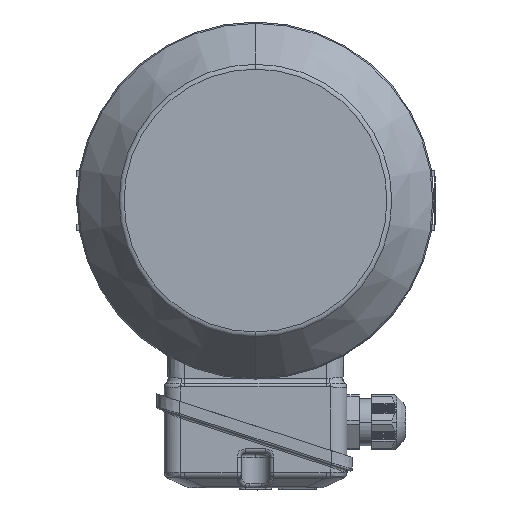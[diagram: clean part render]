
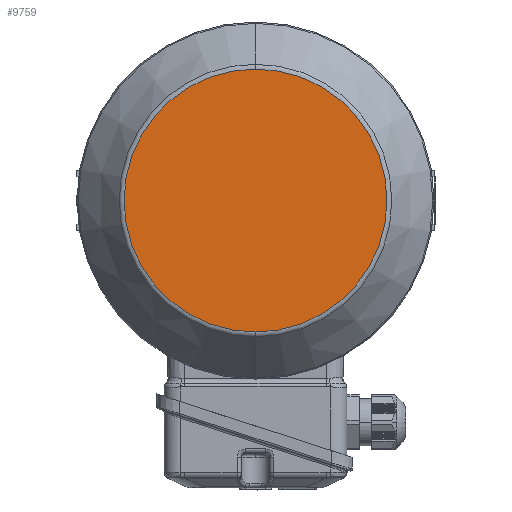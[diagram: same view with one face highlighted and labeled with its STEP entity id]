
A CAD part, left-side view. The second image highlights one B-rep face of the part: STEP entity #9759.
In plain terms, the highlighted planar face has unit normal (-1, 0, 0).
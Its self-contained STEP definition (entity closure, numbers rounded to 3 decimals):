
#427 = ORIENTED_EDGE ( 'NONE', *, *, #37632, .F. ) ;
#692 = CARTESIAN_POINT ( 'NONE',  ( -166.5, 0., -64.037 ) ) ;
#996 = AXIS2_PLACEMENT_3D ( 'NONE', #2125, #19987, #39215 ) ;
#2125 = CARTESIAN_POINT ( 'NONE',  ( -166.5, 0., -64.037 ) ) ;
#2710 = DIRECTION ( 'NONE',  ( 0., 0., -1. ) ) ;
#2910 = DIRECTION ( 'NONE',  ( 1., 0., 0. ) ) ;
#4383 = DIRECTION ( 'NONE',  ( 1., 0., 0. ) ) ;
#5147 = CIRCLE ( 'NONE', #32356, 64.037 ) ;
#5176 = FACE_OUTER_BOUND ( 'NONE', #30216, .T. ) ;
#8210 = AXIS2_PLACEMENT_3D ( 'NONE', #21146, #2910, #2710 ) ;
#8723 = VERTEX_POINT ( 'NONE', #26471 ) ;
#9759 = ADVANCED_FACE ( 'NONE', ( #5176 ), #13680, .T. ) ;
#11048 = CARTESIAN_POINT ( 'NONE',  ( -166.5, 0., 0. ) ) ;
#13680 = PLANE ( 'NONE',  #996 ) ;
#19987 = DIRECTION ( 'NONE',  ( -1., 0., 0. ) ) ;
#21146 = CARTESIAN_POINT ( 'NONE',  ( -166.5, 0., 0. ) ) ;
#22352 = EDGE_CURVE ( 'NONE', #8723, #27272, #5147, .T. ) ;
#26066 = DIRECTION ( 'NONE',  ( 0., 0., -1. ) ) ;
#26471 = CARTESIAN_POINT ( 'NONE',  ( -166.5, 0., 64.037 ) ) ;
#27272 = VERTEX_POINT ( 'NONE', #692 ) ;
#29591 = CIRCLE ( 'NONE', #8210, 64.037 ) ;
#30216 = EDGE_LOOP ( 'NONE', ( #427, #33805 ) ) ;
#32356 = AXIS2_PLACEMENT_3D ( 'NONE', #11048, #4383, #26066 ) ;
#33805 = ORIENTED_EDGE ( 'NONE', *, *, #22352, .F. ) ;
#37632 = EDGE_CURVE ( 'NONE', #27272, #8723, #29591, .T. ) ;
#39215 = DIRECTION ( 'NONE',  ( 0., 1., 0. ) ) ;
